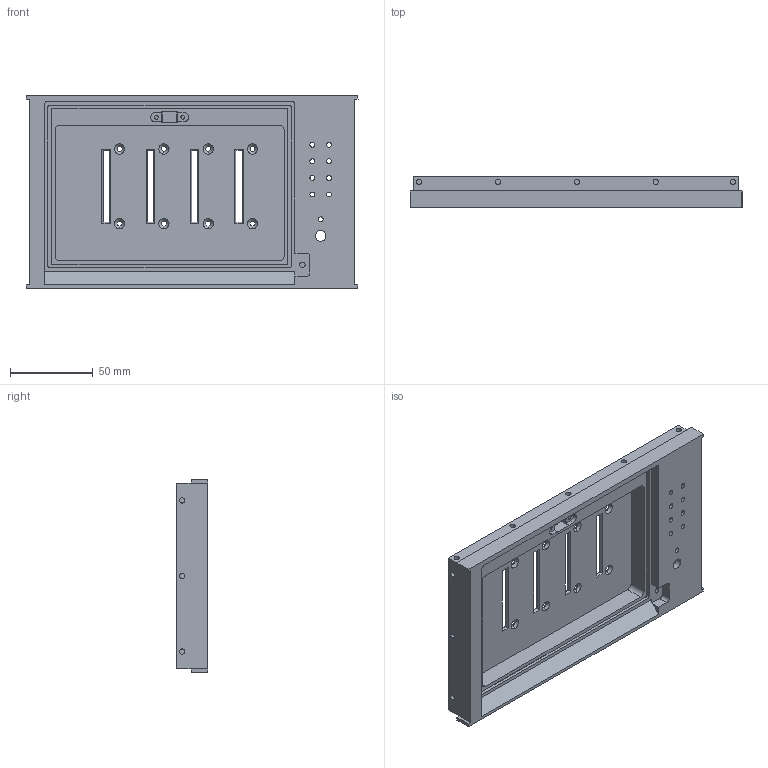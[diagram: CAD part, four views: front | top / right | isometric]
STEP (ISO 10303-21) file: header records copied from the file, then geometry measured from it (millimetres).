
FILE_DESCRIPTION (( 'STEP AP203' ), '1' );
FILE_NAME ('front panel dps3 final 28112024.STEP', '2025-08-06T09:23:32', ( '' ), ( '' ), 'SwSTEP 2.0', 'SolidWorks 2013', '' );
FILE_SCHEMA (( 'CONFIG_CONTROL_DESIGN' ));
Length unit declared in the file: millimetre
Products named in the file (1): front panel dps3 final 28112024
Bounding box: 200 x 19 x 116 mm (x, y, z)
Volume: 175675.4 mm3; surface area: 71336.5 mm2
Topology: 1 solids, 1 shells, 281 faces, 679 edges, 442 vertices
Faces by surface type: cylinder 134, plane 131, cone 16
Entity records: 8432 total; most frequent: DIRECTION 1529, CARTESIAN_POINT 1409, ORIENTED_EDGE 1358, EDGE_CURVE 679, AXIS2_PLACEMENT_3D 570, VERTEX_POINT 442, VECTOR 389, LINE 389
